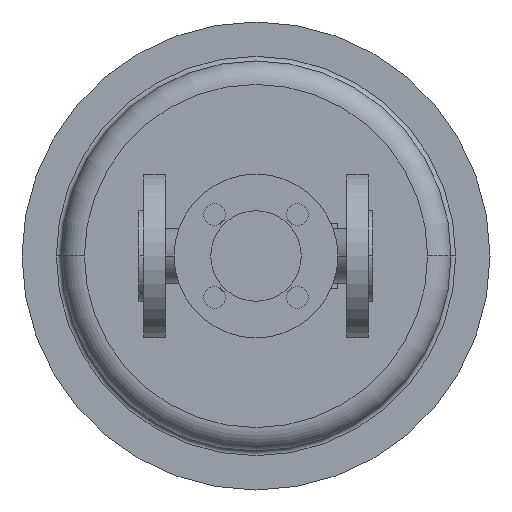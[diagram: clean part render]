
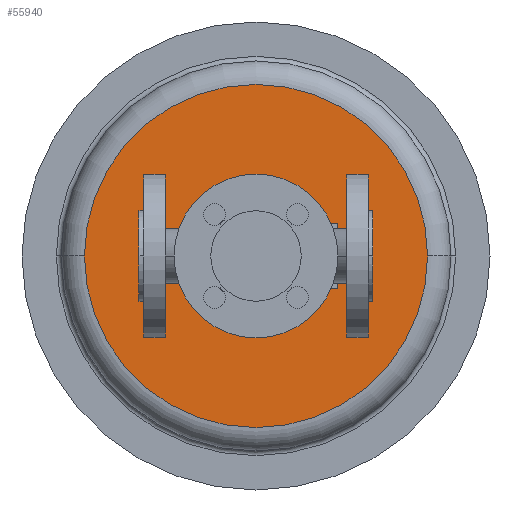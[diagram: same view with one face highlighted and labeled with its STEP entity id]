
A CAD part, front view. The second image highlights one B-rep face of the part: STEP entity #55940.
In plain terms, the highlighted planar face has unit normal (0, -1, 0).
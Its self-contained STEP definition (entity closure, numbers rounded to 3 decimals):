
#48500=CARTESIAN_POINT('',(-35.,541.,0.));
#48510=VERTEX_POINT('',#48500);
#48540=CARTESIAN_POINT('',(75.,541.,0.));
#48550=DIRECTION('',(0.,1.,0.));
#48560=DIRECTION('',(1.,0.,0.));
#48570=AXIS2_PLACEMENT_3D('',#48540,#48550,#48560);
#48580=CIRCLE('',#48570,110.);
#48590=CARTESIAN_POINT('',(185.,541.,0.));
#48600=VERTEX_POINT('',#48590);
#48610=EDGE_CURVE('',#48600,#48510,#48580,.T.);
#49270=CARTESIAN_POINT('',(110.,541.,0.));
#49280=VERTEX_POINT('',#49270);
#49310=CARTESIAN_POINT('',(125.,541.,0.));
#49320=DIRECTION('',(0.,1.,0.));
#49330=DIRECTION('',(1.,0.,0.));
#49340=AXIS2_PLACEMENT_3D('',#49310,#49320,#49330);
#49350=CIRCLE('',#49340,15.);
#49360=CARTESIAN_POINT('',(140.,541.,0.));
#49370=VERTEX_POINT('',#49360);
#49380=EDGE_CURVE('',#49280,#49370,#49350,.T.);
#49690=CARTESIAN_POINT('',(40.,541.,0.));
#49700=VERTEX_POINT('',#49690);
#49730=CARTESIAN_POINT('',(25.,541.,0.));
#49740=DIRECTION('',(0.,1.,0.));
#49750=DIRECTION('',(1.,0.,0.));
#49760=AXIS2_PLACEMENT_3D('',#49730,#49740,#49750);
#49770=CIRCLE('',#49760,15.);
#49780=CARTESIAN_POINT('',(10.,541.,0.));
#49790=VERTEX_POINT('',#49780);
#49800=EDGE_CURVE('',#49700,#49790,#49770,.T.);
#50090=CARTESIAN_POINT('',(56.55,541.,0.));
#50100=VERTEX_POINT('',#50090);
#50150=CARTESIAN_POINT('',(75.,541.,0.));
#50160=DIRECTION('',(0.,1.,0.));
#50170=DIRECTION('',(1.,0.,0.));
#50180=AXIS2_PLACEMENT_3D('',#50150,#50160,#50170);
#50190=CIRCLE('',#50180,18.45);
#50200=CARTESIAN_POINT('',(93.45,541.,0.));
#50210=VERTEX_POINT('',#50200);
#50220=EDGE_CURVE('',#50100,#50210,#50190,.T.);
#55650=CARTESIAN_POINT('',(130.,541.,0.));
#55660=DIRECTION('',(0.,-1.,0.));
#55670=DIRECTION('',(-1.,0.,0.));
#55680=AXIS2_PLACEMENT_3D('',#55650,#55660,#55670);
#55690=PLANE('',#55680);
#55700=EDGE_CURVE('',#50210,#50100,#50190,.T.);
#55710=ORIENTED_EDGE('',*,*,#55700,.T.);
#55720=ORIENTED_EDGE('',*,*,#50220,.T.);
#55730=EDGE_LOOP('',(#55720,#55710));
#55740=FACE_BOUND('',#55730,.T.);
#55750=ORIENTED_EDGE('',*,*,#49800,.T.);
#55760=EDGE_CURVE('',#49790,#49700,#49770,.T.);
#55770=ORIENTED_EDGE('',*,*,#55760,.T.);
#55780=EDGE_LOOP('',(#55770,#55750));
#55790=FACE_BOUND('',#55780,.T.);
#55800=EDGE_CURVE('',#49370,#49280,#49350,.T.);
#55810=ORIENTED_EDGE('',*,*,#55800,.T.);
#55820=ORIENTED_EDGE('',*,*,#49380,.T.);
#55830=EDGE_LOOP('',(#55820,#55810));
#55840=FACE_BOUND('',#55830,.T.);
#55850=CARTESIAN_POINT('',(75.,541.,110.));
#55860=VERTEX_POINT('',#55850);
#55870=EDGE_CURVE('',#55860,#48600,#48580,.T.);
#55880=ORIENTED_EDGE('',*,*,#55870,.F.);
#55890=ORIENTED_EDGE('',*,*,#48610,.F.);
#55900=EDGE_CURVE('',#48510,#55860,#48580,.T.);
#55910=ORIENTED_EDGE('',*,*,#55900,.F.);
#55920=EDGE_LOOP('',(#55910,#55890,#55880));
#55930=FACE_OUTER_BOUND('',#55920,.T.);
#55940=ADVANCED_FACE('',(#55740,#55790,#55840,#55930),#55690,.T.);
